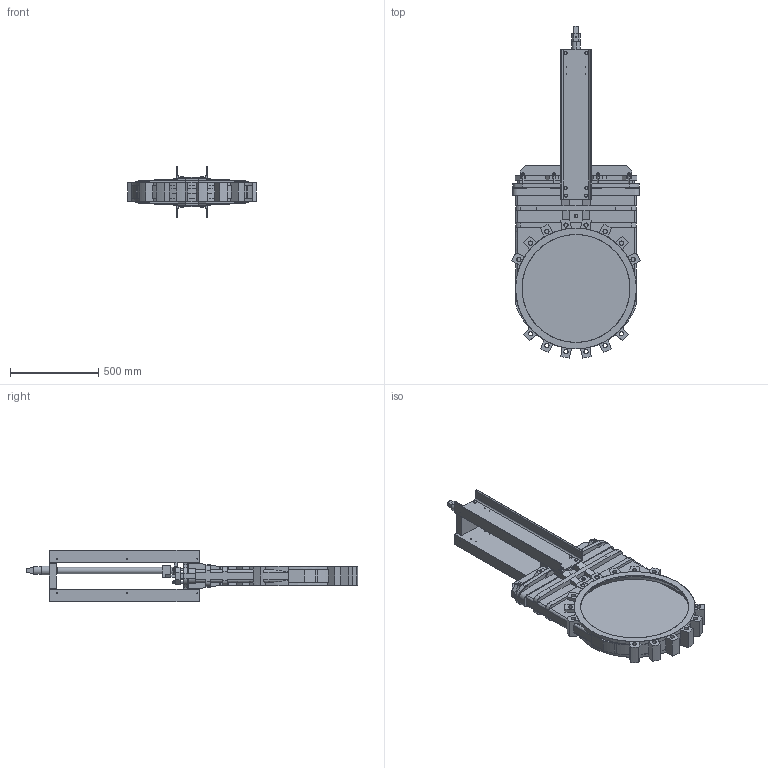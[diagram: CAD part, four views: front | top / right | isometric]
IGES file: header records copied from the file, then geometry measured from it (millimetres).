
Start section: SolidWorks IGES file using analytic representation for surfaces
Global section: file name: D:\part\3D Projects\VG-SQUARE OPERATING NON RASING(DN50-600)\VG S N DN600\VG S N DN600.IGS; native system: SolidWorks 2009; preprocessor: SolidWorks 2009; author: zhixin.zheng; date: 100504.151657; units: millimetre
Bounding box: 724.39 x 1877.17 x 290 mm (x, y, z)
Surface area: 3570894.5 mm2 (no closed solid volume)
Topology: 0 solids, 0 shells, 1140 faces, 11478 edges, 11478 vertices
Faces by surface type: bspline 716, revolution 424
